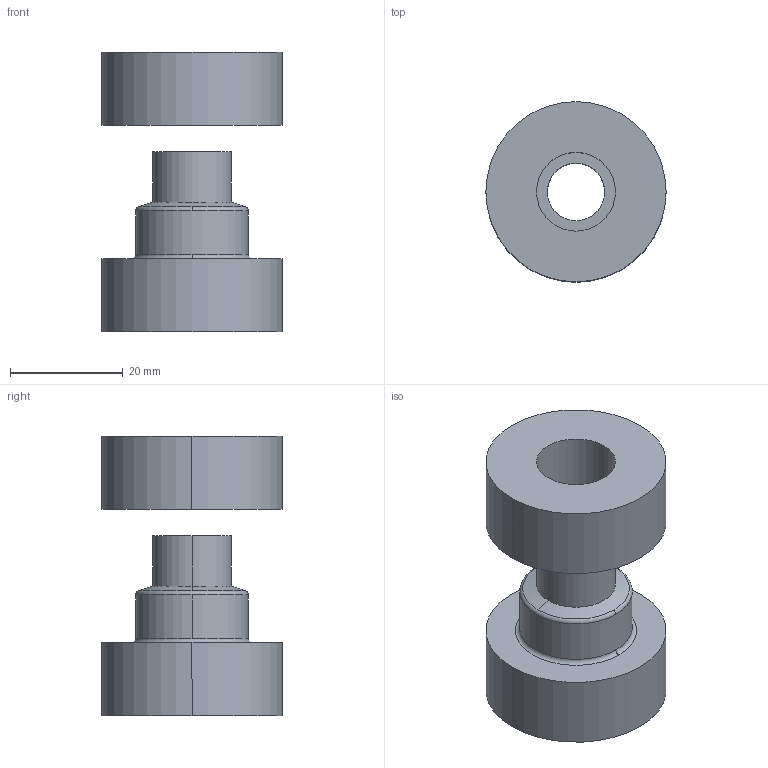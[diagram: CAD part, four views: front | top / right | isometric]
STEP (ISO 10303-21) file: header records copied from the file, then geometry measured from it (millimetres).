
FILE_DESCRIPTION(('STEP AP214'),'1');
FILE_NAME('U:/ReDesign 2018/CAD/UMount_6001x_08082018.stp','2018-08-08T14:50:00',(' '),(' '),'Spatial InterOp 3D',' ',' ');
FILE_SCHEMA(('automotive_design'));
Length unit declared in the file: millimetre
Products named in the file (2): 1; 2
Bounding box: 32 x 32 x 49.65 mm (x, y, z)
Volume: 20741 mm3; surface area: 7897.4 mm2
Topology: 2 solids, 2 shells, 23 faces, 53 edges, 35 vertices
Faces by surface type: cylinder 12, plane 5, torus 4, cone 2
Entity records: 716 total; most frequent: DIRECTION 142, CARTESIAN_POINT 113, ORIENTED_EDGE 106, AXIS2_PLACEMENT_3D 64, EDGE_CURVE 53, CIRCLE 39, VERTEX_POINT 35, EDGE_LOOP 28
